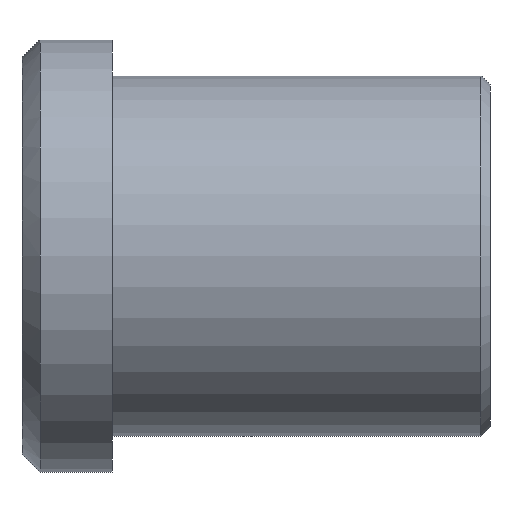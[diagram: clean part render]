
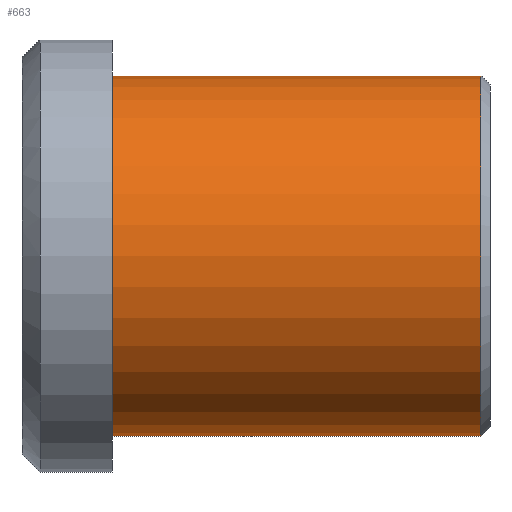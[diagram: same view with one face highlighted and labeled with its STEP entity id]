
A CAD part, front view. The second image highlights one B-rep face of the part: STEP entity #663.
In plain terms, the highlighted cylindrical face has radius 10 mm (diameter 20 mm), a partial arc.
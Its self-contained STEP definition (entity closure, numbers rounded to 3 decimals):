
#501=CARTESIAN_POINT('Vertex',(0.,0.,-10.)) ;
#506=CARTESIAN_POINT('Axis2P3D Location',(0.,0.,0.)) ;
#510=CARTESIAN_POINT('Vertex',(0.,-10.,0.)) ;
#513=CARTESIAN_POINT('Axis2P3D Location',(0.,0.,0.)) ;
#517=CARTESIAN_POINT('Vertex',(0.,0.,10.)) ;
#603=CARTESIAN_POINT('Line Origine',(21.,0.,10.)) ;
#607=CARTESIAN_POINT('Vertex',(20.5,0.,10.)) ;
#621=CARTESIAN_POINT('Vertex',(20.5,0.,-10.)) ;
#624=CARTESIAN_POINT('Line Origine',(21.,0.,-10.)) ;
#638=CARTESIAN_POINT('Axis2P3D Location',(21.,0.,0.)) ;
#643=CARTESIAN_POINT('Axis2P3D Location',(20.5,0.,0.)) ;
#647=CARTESIAN_POINT('Vertex',(20.5,-10.,0.)) ;
#650=CARTESIAN_POINT('Axis2P3D Location',(20.5,0.,0.)) ;
#507=DIRECTION('Axis2P3D Direction',(1.,0.,-0.)) ;
#514=DIRECTION('Axis2P3D Direction',(1.,0.,-0.)) ;
#604=DIRECTION('Vector Direction',(-1.,0.,0.)) ;
#625=DIRECTION('Vector Direction',(-1.,0.,0.)) ;
#639=DIRECTION('Axis2P3D Direction',(-1.,-0.,-0.)) ;
#640=DIRECTION('Axis2P3D XDirection',(0.,0.,-1.)) ;
#644=DIRECTION('Axis2P3D Direction',(-1.,-0.,-0.)) ;
#651=DIRECTION('Axis2P3D Direction',(-1.,-0.,-0.)) ;
#508=AXIS2_PLACEMENT_3D('Circle Axis2P3D',#506,#507,$) ;
#515=AXIS2_PLACEMENT_3D('Circle Axis2P3D',#513,#514,$) ;
#641=AXIS2_PLACEMENT_3D('Cylinder Axis2P3D',#638,#639,#640) ;
#645=AXIS2_PLACEMENT_3D('Circle Axis2P3D',#643,#644,$) ;
#652=AXIS2_PLACEMENT_3D('Circle Axis2P3D',#650,#651,$) ;
#656=ORIENTED_EDGE('',*,*,#628,.T.) ;
#657=ORIENTED_EDGE('',*,*,#649,.F.) ;
#658=ORIENTED_EDGE('',*,*,#654,.F.) ;
#659=ORIENTED_EDGE('',*,*,#609,.T.) ;
#660=ORIENTED_EDGE('',*,*,#519,.T.) ;
#661=ORIENTED_EDGE('',*,*,#512,.T.) ;
#605=VECTOR('Line Direction',#604,1.) ;
#626=VECTOR('Line Direction',#625,1.) ;
#663=ADVANCED_FACE('353-14X26',(#662),#642,.T.) ;
#509=CIRCLE('generated circle',#508,10.) ;
#516=CIRCLE('generated circle',#515,10.) ;
#646=CIRCLE('generated circle',#645,10.) ;
#653=CIRCLE('generated circle',#652,10.) ;
#642=CYLINDRICAL_SURFACE('generated cylinder',#641,10.) ;
#512=EDGE_CURVE('',#511,#502,#509,.T.) ;
#519=EDGE_CURVE('',#518,#511,#516,.T.) ;
#609=EDGE_CURVE('',#608,#518,#606,.T.) ;
#628=EDGE_CURVE('',#502,#622,#627,.F.) ;
#649=EDGE_CURVE('',#648,#622,#646,.F.) ;
#654=EDGE_CURVE('',#608,#648,#653,.F.) ;
#655=EDGE_LOOP('',(#656,#657,#658,#659,#660,#661)) ;
#662=FACE_OUTER_BOUND('',#655,.T.) ;
#606=LINE('Line',#603,#605) ;
#627=LINE('Line',#624,#626) ;
#502=VERTEX_POINT('',#501) ;
#511=VERTEX_POINT('',#510) ;
#518=VERTEX_POINT('',#517) ;
#608=VERTEX_POINT('',#607) ;
#622=VERTEX_POINT('',#621) ;
#648=VERTEX_POINT('',#647) ;
